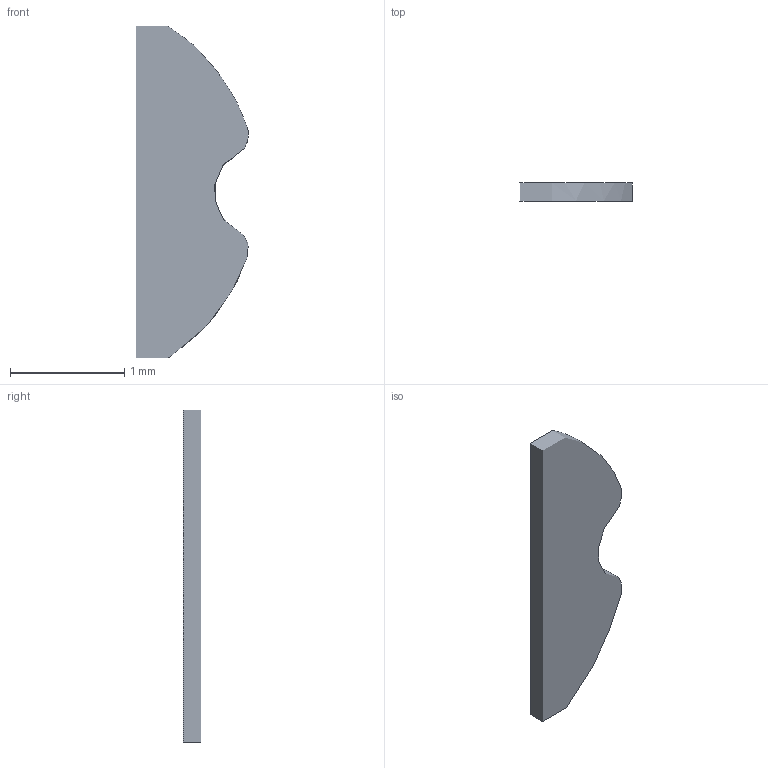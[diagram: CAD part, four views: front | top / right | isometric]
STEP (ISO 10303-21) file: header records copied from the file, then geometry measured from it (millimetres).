
FILE_DESCRIPTION(/* description */ ('STEP AP242 Edition 2','CAx-IF Rec.Pracs.---Representation and Presentation of Product Manufacturing Information (PMI)---4.0---2014-10-13','CAx-IF Rec.Pracs.---3D Tessellated Geometry---0.4---2014-09-14','2;1','CAx-IF Rec.Pracs.---User Defined Attributes---1.5---2016-08-15'),/* implementation_level */ '2;1');
FILE_NAME(/* name */ 'Assembly 1 - Part 81',/* time_stamp */ '2026-03-29T21:14:58Z',/* author */ (''),/* organization */ (''),/* preprocessor_version */ 'ST-DEVELOPER v20',/* originating_system */ 'ONSHAPE BY PTC INC, 1.212',/* authorisation */ ' ');
FILE_SCHEMA (('AP242_MANAGED_MODEL_BASED_3D_ENGINEERING_MIM_LF { 1 0 10303 442 3 1 4 }'));
Length unit declared in the file: metre
Products named in the file (1): Part 81
Bounding box: 0.98 x 0.16 x 2.91 mm (x, y, z)
Surface area: 5.5 mm2 (no closed solid volume)
Topology: 0 solids, 1 shells, 1 faces, 0 edges, 0 vertices
Faces by surface type: other 1
Entity records: 31 total; most frequent: DIRECTION 2, SHAPE_REPRESENTATION_RELATIONSHIP 1, TESSELLATED_SHAPE_REPRESENTATION 1, STYLED_ITEM 1, PRESENTATION_STYLE_ASSIGNMENT 1, SURFACE_STYLE_USAGE 1, SURFACE_SIDE_STYLE 1, SURFACE_STYLE_FILL_AREA 1
